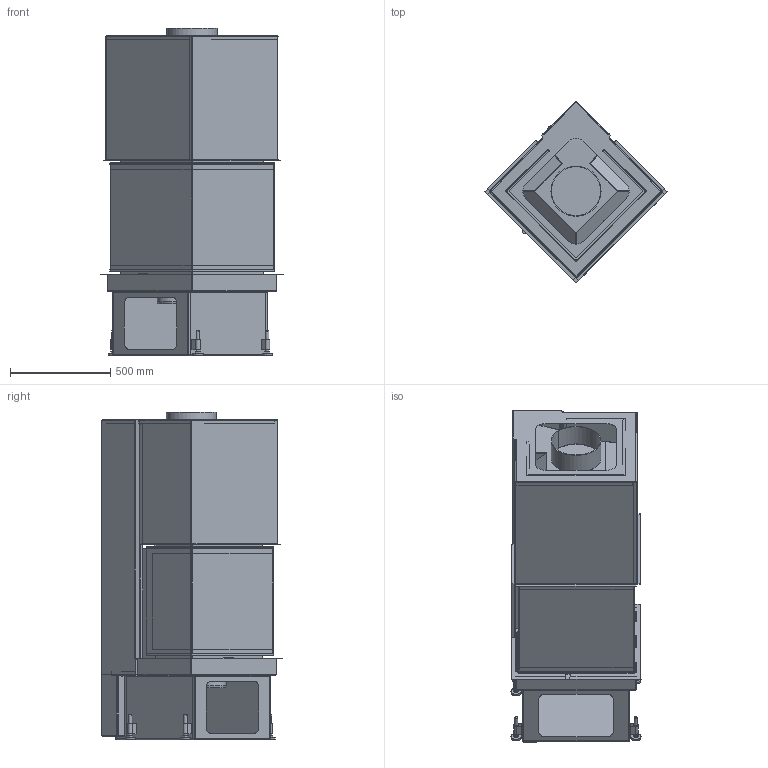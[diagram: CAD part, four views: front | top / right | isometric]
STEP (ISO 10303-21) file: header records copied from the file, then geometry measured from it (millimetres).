
FILE_DESCRIPTION((''),'2;1');
FILE_NAME('R:\Daten\Technik\Produkte\Cubeo\3D Export Files\Cubeo_K_Gen1_2011-01233_rev1.stp','2012-03-01T16:30:02',('rhu'),(''),'Autodesk Inventor 2012','Autodesk Inventor 2012','');
FILE_SCHEMA(('AUTOMOTIVE_DESIGN { 1 0 10303 214 1 1 1 1 }'));
Length unit declared in the file: millimetre
Products named in the file (7): 2011-01233; 2011-01229; 2011-01230; 2011-01232; 2010-02906; 2010-02907; 2010-02919
Assembly tree (7 placements, depth 2):
  2011-01233
    2011-01229
    2011-01230
    2011-01232
    2010-02906  x2
    2010-02907
    2010-02919
Bounding box: 908.27 x 902.08 x 1631.5 mm (x, y, z)
Volume: 44271630.6 mm3; surface area: 19727698.8 mm2
Topology: 19 solids, 23 shells, 3224 faces, 8437 edges, 5153 vertices
Faces by surface type: plane 2119, cylinder 953, cone 67, bspline 66, sphere 18, torus 1
Full cylindrical faces by diameter (mm): 6 x10, 9 x2, 16 x8, 30 x4, 144 x1, 148 x1, 162 x1, 244 x1, 250 x1
Entity records: 100829 total; most frequent: CARTESIAN_POINT 20169, ORIENTED_EDGE 16650, DIRECTION 16153, EDGE_CURVE 8325, VECTOR 5965, LINE 5965, VERTEX_POINT 5100, AXIS2_PLACEMENT_3D 5094
